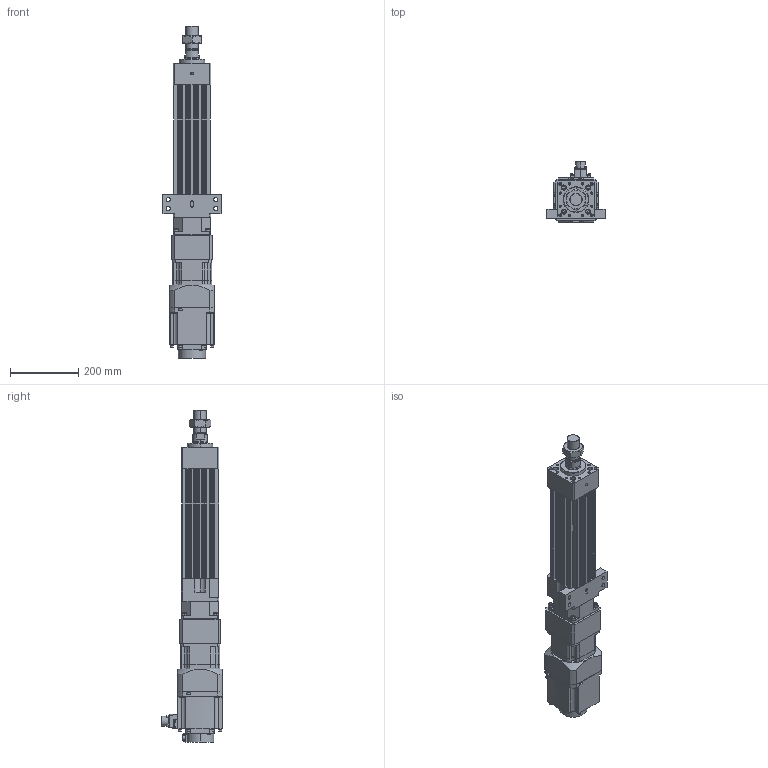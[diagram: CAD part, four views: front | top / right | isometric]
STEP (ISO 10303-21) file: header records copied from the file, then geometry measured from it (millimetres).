
FILE_DESCRIPTION (( 'STEP AP203' ), '1' );
FILE_NAME ('HES110NS(HS)-S150-W015G00-M-FFC.STEP', '2023-01-28T04:44:40', ( 'tms' ), ( '' ), 'SwSTEP 2.0', 'SolidWorks 2013', '' );
FILE_SCHEMA (( 'CONFIG_CONTROL_DESIGN' ));
Length unit declared in the file: millimetre
Products named in the file (8): P0401400706; HES110-S150-G120-FFC; HES110NS(HS)-S150-W015G00-M-FFC; AB1151; M36X1.5P; HG-SR152; HES110 ROD M ST150; AB115-003[HG-SR152]
Assembly tree (7 placements, depth 3):
  HES110NS(HS)-S150-W015G00-M-FFC
    HES110-S150-G120-FFC
    HES110 ROD M ST150
    M36X1.5P
    AB115-003[HG-SR152]
      AB1151
      P0401400706
    HG-SR152
Bounding box: 170 x 177.49 x 971.5 mm (x, y, z)
Volume: 6306864.1 mm3; surface area: 844934.9 mm2
Topology: 4 solids, 15 shells, 1222 faces, 3083 edges, 1988 vertices
Faces by surface type: plane 557, cylinder 549, cone 104, bspline 8, torus 4
Entity records: 38313 total; most frequent: CARTESIAN_POINT 7246, DIRECTION 6648, ORIENTED_EDGE 6070, EDGE_CURVE 3045, AXIS2_PLACEMENT_3D 2450, VERTEX_POINT 1988, LINE 1748, VECTOR 1748
